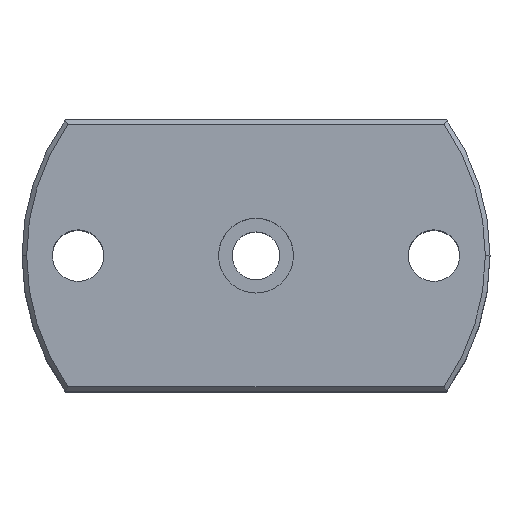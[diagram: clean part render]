
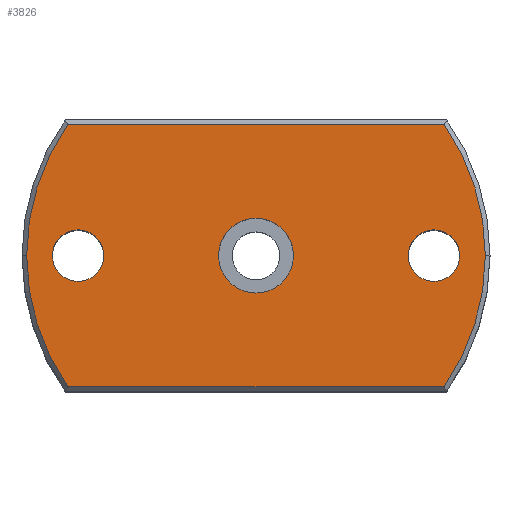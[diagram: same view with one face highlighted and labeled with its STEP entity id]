
A CAD part, top view. The second image highlights one B-rep face of the part: STEP entity #3826.
In plain terms, the highlighted planar face has unit normal (0, 0, 1).
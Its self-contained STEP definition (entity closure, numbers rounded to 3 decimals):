
#3609=CARTESIAN_POINT('Vertex',(32.5,0.,0.)) ;
#3612=CARTESIAN_POINT('Axis2P3D Location',(38.,0.,0.)) ;
#3616=CARTESIAN_POINT('Vertex',(43.5,0.,0.)) ;
#3719=CARTESIAN_POINT('Axis2P3D Location',(38.,0.,0.)) ;
#3731=CARTESIAN_POINT('Axis2P3D Location',(0.,0.,0.)) ;
#3736=CARTESIAN_POINT('Axis2P3D Location',(0.,0.,0.)) ;
#3740=CARTESIAN_POINT('Vertex',(40.212,-28.,0.)) ;
#3742=CARTESIAN_POINT('Vertex',(49.,0.,0.)) ;
#3745=CARTESIAN_POINT('Axis2P3D Location',(0.,0.,0.)) ;
#3749=CARTESIAN_POINT('Vertex',(40.212,28.,0.)) ;
#3752=CARTESIAN_POINT('Line Origine',(0.,28.,0.)) ;
#3756=CARTESIAN_POINT('Vertex',(-40.212,28.,0.)) ;
#3759=CARTESIAN_POINT('Axis2P3D Location',(0.,0.,0.)) ;
#3763=CARTESIAN_POINT('Vertex',(-49.,0.,0.)) ;
#3766=CARTESIAN_POINT('Axis2P3D Location',(0.,0.,0.)) ;
#3770=CARTESIAN_POINT('Vertex',(-40.212,-28.,0.)) ;
#3773=CARTESIAN_POINT('Line Origine',(0.,-28.,0.)) ;
#3790=CARTESIAN_POINT('Axis2P3D Location',(-38.,0.,0.)) ;
#3794=CARTESIAN_POINT('Vertex',(-32.5,0.,0.)) ;
#3796=CARTESIAN_POINT('Vertex',(-43.5,0.,0.)) ;
#3799=CARTESIAN_POINT('Axis2P3D Location',(-38.,0.,0.)) ;
#3808=CARTESIAN_POINT('Axis2P3D Location',(0.,0.,0.)) ;
#3812=CARTESIAN_POINT('Vertex',(8.,0.,0.)) ;
#3814=CARTESIAN_POINT('Vertex',(-8.,0.,0.)) ;
#3817=CARTESIAN_POINT('Axis2P3D Location',(0.,0.,0.)) ;
#3613=DIRECTION('Axis2P3D Direction',(0.,-0.,1.)) ;
#3720=DIRECTION('Axis2P3D Direction',(0.,-0.,1.)) ;
#3732=DIRECTION('Axis2P3D Direction',(0.,0.,1.)) ;
#3733=DIRECTION('Axis2P3D XDirection',(1.,0.,-0.)) ;
#3737=DIRECTION('Axis2P3D Direction',(0.,0.,1.)) ;
#3746=DIRECTION('Axis2P3D Direction',(0.,0.,1.)) ;
#3753=DIRECTION('Vector Direction',(-1.,0.,0.)) ;
#3760=DIRECTION('Axis2P3D Direction',(0.,0.,1.)) ;
#3767=DIRECTION('Axis2P3D Direction',(0.,0.,1.)) ;
#3774=DIRECTION('Vector Direction',(1.,0.,0.)) ;
#3791=DIRECTION('Axis2P3D Direction',(0.,0.,1.)) ;
#3800=DIRECTION('Axis2P3D Direction',(0.,0.,1.)) ;
#3809=DIRECTION('Axis2P3D Direction',(0.,0.,1.)) ;
#3818=DIRECTION('Axis2P3D Direction',(0.,0.,1.)) ;
#3614=AXIS2_PLACEMENT_3D('Circle Axis2P3D',#3612,#3613,$) ;
#3721=AXIS2_PLACEMENT_3D('Circle Axis2P3D',#3719,#3720,$) ;
#3734=AXIS2_PLACEMENT_3D('Plane Axis2P3D',#3731,#3732,#3733) ;
#3738=AXIS2_PLACEMENT_3D('Circle Axis2P3D',#3736,#3737,$) ;
#3747=AXIS2_PLACEMENT_3D('Circle Axis2P3D',#3745,#3746,$) ;
#3761=AXIS2_PLACEMENT_3D('Circle Axis2P3D',#3759,#3760,$) ;
#3768=AXIS2_PLACEMENT_3D('Circle Axis2P3D',#3766,#3767,$) ;
#3792=AXIS2_PLACEMENT_3D('Circle Axis2P3D',#3790,#3791,$) ;
#3801=AXIS2_PLACEMENT_3D('Circle Axis2P3D',#3799,#3800,$) ;
#3810=AXIS2_PLACEMENT_3D('Circle Axis2P3D',#3808,#3809,$) ;
#3819=AXIS2_PLACEMENT_3D('Circle Axis2P3D',#3817,#3818,$) ;
#3779=ORIENTED_EDGE('',*,*,#3744,.T.) ;
#3780=ORIENTED_EDGE('',*,*,#3751,.T.) ;
#3781=ORIENTED_EDGE('',*,*,#3758,.T.) ;
#3782=ORIENTED_EDGE('',*,*,#3765,.T.) ;
#3783=ORIENTED_EDGE('',*,*,#3772,.T.) ;
#3784=ORIENTED_EDGE('',*,*,#3777,.T.) ;
#3787=ORIENTED_EDGE('',*,*,#3723,.F.) ;
#3788=ORIENTED_EDGE('',*,*,#3618,.F.) ;
#3805=ORIENTED_EDGE('',*,*,#3798,.F.) ;
#3806=ORIENTED_EDGE('',*,*,#3803,.F.) ;
#3823=ORIENTED_EDGE('',*,*,#3816,.F.) ;
#3824=ORIENTED_EDGE('',*,*,#3821,.F.) ;
#3789=FACE_BOUND('',#3786,.T.) ;
#3807=FACE_BOUND('',#3804,.T.) ;
#3825=FACE_BOUND('',#3822,.T.) ;
#3754=VECTOR('Line Direction',#3753,1.) ;
#3775=VECTOR('Line Direction',#3774,1.) ;
#3826=ADVANCED_FACE('Foro \X2\00D8\X0\11.0 (11)-1',(#3785,#3789,#3807,#3825),#3735,.T.) ;
#3615=CIRCLE('generated circle',#3614,5.5) ;
#3722=CIRCLE('generated circle',#3721,5.5) ;
#3739=CIRCLE('generated circle',#3738,49.) ;
#3748=CIRCLE('generated circle',#3747,49.) ;
#3762=CIRCLE('generated circle',#3761,49.) ;
#3769=CIRCLE('generated circle',#3768,49.) ;
#3793=CIRCLE('generated circle',#3792,5.5) ;
#3802=CIRCLE('generated circle',#3801,5.5) ;
#3811=CIRCLE('generated circle',#3810,8.) ;
#3820=CIRCLE('generated circle',#3819,8.) ;
#3618=EDGE_CURVE('',#3610,#3617,#3615,.T.) ;
#3723=EDGE_CURVE('',#3617,#3610,#3722,.T.) ;
#3744=EDGE_CURVE('',#3741,#3743,#3739,.T.) ;
#3751=EDGE_CURVE('',#3743,#3750,#3748,.T.) ;
#3758=EDGE_CURVE('',#3750,#3757,#3755,.T.) ;
#3765=EDGE_CURVE('',#3757,#3764,#3762,.T.) ;
#3772=EDGE_CURVE('',#3764,#3771,#3769,.T.) ;
#3777=EDGE_CURVE('',#3771,#3741,#3776,.T.) ;
#3798=EDGE_CURVE('',#3795,#3797,#3793,.T.) ;
#3803=EDGE_CURVE('',#3797,#3795,#3802,.T.) ;
#3816=EDGE_CURVE('',#3813,#3815,#3811,.T.) ;
#3821=EDGE_CURVE('',#3815,#3813,#3820,.T.) ;
#3778=EDGE_LOOP('',(#3779,#3780,#3781,#3782,#3783,#3784)) ;
#3786=EDGE_LOOP('',(#3787,#3788)) ;
#3804=EDGE_LOOP('',(#3805,#3806)) ;
#3822=EDGE_LOOP('',(#3823,#3824)) ;
#3785=FACE_OUTER_BOUND('',#3778,.T.) ;
#3755=LINE('Line',#3752,#3754) ;
#3776=LINE('Line',#3773,#3775) ;
#3735=PLANE('Plane',#3734) ;
#3610=VERTEX_POINT('',#3609) ;
#3617=VERTEX_POINT('',#3616) ;
#3741=VERTEX_POINT('',#3740) ;
#3743=VERTEX_POINT('',#3742) ;
#3750=VERTEX_POINT('',#3749) ;
#3757=VERTEX_POINT('',#3756) ;
#3764=VERTEX_POINT('',#3763) ;
#3771=VERTEX_POINT('',#3770) ;
#3795=VERTEX_POINT('',#3794) ;
#3797=VERTEX_POINT('',#3796) ;
#3813=VERTEX_POINT('',#3812) ;
#3815=VERTEX_POINT('',#3814) ;
